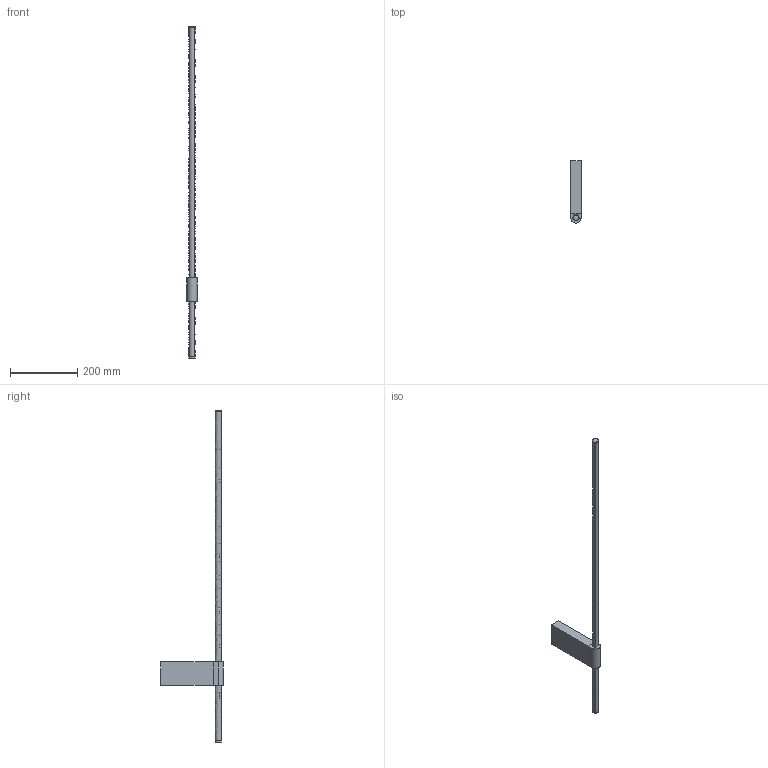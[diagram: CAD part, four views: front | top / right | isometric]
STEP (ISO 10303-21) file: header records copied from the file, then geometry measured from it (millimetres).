
FILE_DESCRIPTION(/* description */ (''),/* implementation_level */ '2;1');
FILE_NAME(/* name */ '4569',/* time_stamp */ '2021-03-31T13:13:26+02:00',/* author */ (''),/* organization */ (''),/* preprocessor_version */ 'ST-DEVELOPER v16.5',/* originating_system */ '',/* authorisation */ '');
FILE_SCHEMA (('CONFIG_CONTROL_DESIGN'));
Length unit declared in the file: millimetre
Products named in the file (1): Document
Bounding box: 30 x 184.96 x 986 mm (x, y, z)
Volume: 453084.6 mm3; surface area: 150796.3 mm2
Topology: 5 solids, 6 shells, 26 faces, 49 edges, 34 vertices
Faces by surface type: plane 16, cylinder 8, bspline 2
Full cylindrical faces by diameter (mm): 18 x2
Entity records: 811 total; most frequent: CARTESIAN_POINT 373, ORIENTED_EDGE 94, EDGE_CURVE 49, VERTEX_POINT 34, DIRECTION 30, AXIS2_PLACEMENT_3D 27, ADVANCED_FACE 26, FACE_OUTER_BOUND 26
